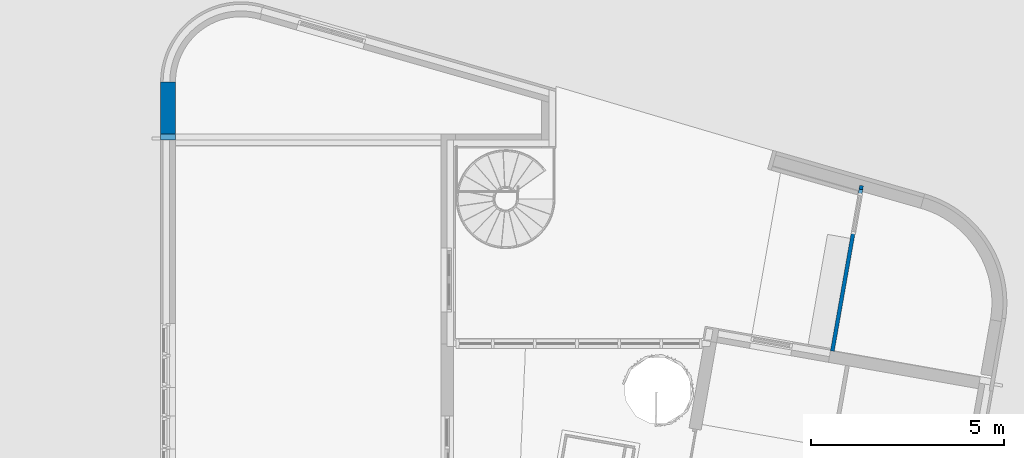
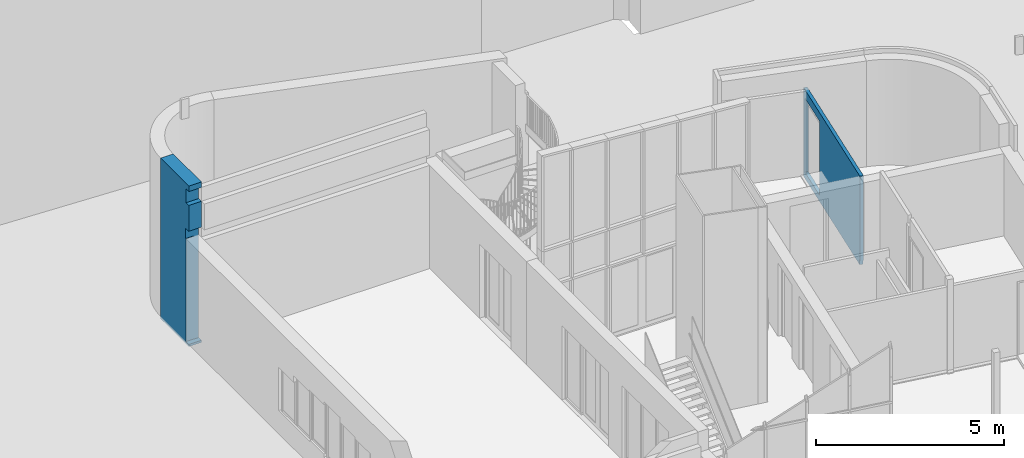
# One storey, part 16 of 21: 2 walls.
"""IFC2X3 building model written with IfcOpenShell, lengths in millimetres."""

from ifc_helpers import new_model, entity, si_unit, converted_unit, derived_unit, direction, frame, origin, place, context, subcontext, project, spatial, faceted_brep, material, layer, layer_set, type_object, element, save


model = new_model("IFC2X3")

# Units and contexts
model_context = context("Model", 3, precision=0.01, world=origin(), true_north=direction((6.12303176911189e-17, 1.0)))
body_context = subcontext(model_context, "Body", "Model", "MODEL_VIEW")
ifc_project = project(units=[si_unit("LENGTHUNIT", "METRE", prefix="MILLI"), si_unit("AREAUNIT", "SQUARE_METRE"), si_unit("VOLUMEUNIT", "CUBIC_METRE"), converted_unit("PLANEANGLEUNIT", "DEGREE", entity("IfcRatioMeasure", 0.0174532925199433), si_unit("PLANEANGLEUNIT", "RADIAN"), dimensions=[0, 0, 0, 0, 0, 0, 0]), si_unit("MASSUNIT", "GRAM", prefix="KILO"), derived_unit("MASSDENSITYUNIT", [(si_unit("MASSUNIT", "GRAM", prefix="KILO"), 1), (si_unit("LENGTHUNIT", "METRE"), -3)]), derived_unit("MOMENTOFINERTIAUNIT", [(si_unit("LENGTHUNIT", "METRE"), 4)]), si_unit("TIMEUNIT", "SECOND"), si_unit("FREQUENCYUNIT", "HERTZ"), si_unit("THERMODYNAMICTEMPERATUREUNIT", "DEGREE_CELSIUS"), derived_unit("THERMALTRANSMITTANCEUNIT", [(si_unit("MASSUNIT", "GRAM", prefix="KILO"), 1), (si_unit("THERMODYNAMICTEMPERATUREUNIT", "KELVIN"), -1), (si_unit("TIMEUNIT", "SECOND"), -3)]), derived_unit("VOLUMETRICFLOWRATEUNIT", [(si_unit("LENGTHUNIT", "METRE"), 3), (si_unit("TIMEUNIT", "SECOND"), -1)]), si_unit("ELECTRICCURRENTUNIT", "AMPERE"), si_unit("ELECTRICVOLTAGEUNIT", "VOLT"), si_unit("POWERUNIT", "WATT"), si_unit("FORCEUNIT", "NEWTON", prefix="KILO"), si_unit("ILLUMINANCEUNIT", "LUX"), si_unit("LUMINOUSFLUXUNIT", "LUMEN"), si_unit("LUMINOUSINTENSITYUNIT", "CANDELA"), derived_unit("USERDEFINED", [(si_unit("MASSUNIT", "GRAM", prefix="KILO"), -1), (si_unit("LENGTHUNIT", "METRE"), -2), (si_unit("TIMEUNIT", "SECOND"), 3), (si_unit("LUMINOUSFLUXUNIT", "LUMEN"), 1)]), derived_unit("LINEARVELOCITYUNIT", [(si_unit("LENGTHUNIT", "METRE"), 1), (si_unit("TIMEUNIT", "SECOND"), -1)]), si_unit("PRESSUREUNIT", "PASCAL"), derived_unit("USERDEFINED", [(si_unit("LENGTHUNIT", "METRE"), -2), (si_unit("MASSUNIT", "GRAM", prefix="KILO"), 1), (si_unit("TIMEUNIT", "SECOND"), -2)]), derived_unit("LINEARFORCEUNIT", [(si_unit("MASSUNIT", "GRAM", prefix="KILO"), 1), (si_unit("LENGTHUNIT", "METRE"), 1), (si_unit("TIMEUNIT", "SECOND"), -2), (si_unit("LENGTHUNIT", "METRE"), -1)]), derived_unit("PLANARFORCEUNIT", [(si_unit("MASSUNIT", "GRAM", prefix="KILO"), 1), (si_unit("LENGTHUNIT", "METRE"), 1), (si_unit("TIMEUNIT", "SECOND"), -2), (si_unit("LENGTHUNIT", "METRE"), -2)])], contexts=[model_context])

# Site, building, storey
site_placement = place(None, origin())
site = spatial("IfcSite", under=ifc_project, at=site_placement, Name="<Kadaster Gemeente>;<Kadaster nummer>;<Kadaster sectie>", CompositionType="ELEMENT")
building_placement = place(site_placement, origin())
building = spatial("IfcBuilding", under=site, at=building_placement, Name="JRCZ Middelburg", CompositionType="ELEMENT")
storey_placement = place(building_placement, origin())
storey = spatial("IfcBuildingStorey", under=building, at=storey_placement, Name="00 begane grond", CompositionType="ELEMENT", Elevation=0.0)

# Walls
ifc_material_1 = material(Name="Gevelafwerking")
ifc_layer_1 = layer(ifc_material_1, 30.0)
ifc_material_2 = material(Name="ISR_Luchtspouw")
ifc_layer_2 = layer(ifc_material_2, 35.0)
ifc_layer_3 = layer(ifc_material_2, 35.0)
ifc_material_3 = material(Name="RBM_n7_isolatie_hsb_270")
ifc_layer_4 = layer(ifc_material_3, 270.0)
ifc_material_4 = material(Name="RBM_i4_multiplex_beplating")
ifc_layer_5 = layer(ifc_material_4, 18.0)
ifc_layer_set_1 = layer_set([ifc_layer_1, ifc_layer_2, ifc_layer_3, ifc_layer_4, ifc_layer_5], Name="Basic Wall:21_RBM_WA_hsb_270mm_houten bekleding")
wall_type_1 = type_object("IfcWallType", Name="Basic Wall:21_RBM_WA_hsb_270mm_houten bekleding", PredefinedType="STANDARD", material=ifc_layer_set_1)
wall_1_placement = place(storey_placement, frame((9956.0, 24397.0, -70.0), z_axis=(0.0, 0.0, 1.0), x_axis=(0.0, 1.0, 0.0)))
element("IfcWall", 1, at=wall_1_placement, inside=storey, type_object=wall_type_1, Name="Basic Wall:21_RBM_WA_hsb_270mm_houten bekleding", ObjectType="Basic Wall:21_RBM_WA_hsb_270mm_houten bekleding", context=body_context, shape_type="Brep", body=[
    faceted_brep([(0.0, -194.0, 0.0), (1500.33218403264, -194.0, 0.0), (1500.33218403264, -194.0, 5200.0), (219.0, -194.0, 5200.0), (0.0, -194.0, 5200.0), (0.0, -194.0, 5020.0), (153.0, -194.0, 5020.0), (153.0, -194.0, 4570.0), (3.0, -194.0, 4570.0), (3.0, -194.0, 3735.0), (153.0, -194.0, 3735.0), (153.0, -194.0, 3725.0), (153.0, -194.0, 3405.0), (153.0, -194.0, 70.0), (0.0, -194.0, 70.0), (1500.33218403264, 194.0, 0.0), (0.0, 194.0, 0.0), (0.0, 194.0, 70.0), (153.0, 194.0, 70.0), (153.0, 194.0, 3405.0), (165.500000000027, 194.0, 3405.0), (165.500000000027, 194.0, 3725.0), (153.0, 194.0, 3725.0), (153.0, 194.0, 3735.0), (3.0, 194.0, 3735.0), (3.0, 194.0, 4570.0), (153.0, 194.0, 4570.0), (153.0, 194.0, 5020.0), (0.0, 194.0, 5020.0), (0.0, 194.0, 5200.0), (219.0, 194.0, 5200.0), (1500.33218403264, 194.0, 5200.0), (165.500000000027, -44.0, 3725.0), (153.0, -44.0, 3725.0), (153.0, -44.0, 3405.0), (165.500000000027, -44.0, 3405.0)], [[[0, 1, 2, 3, 4, 5, 6, 7, 8, 9, 10, 11, 12, 13, 14]], [[15, 16, 17, 18, 19, 20, 21, 22, 23, 24, 25, 26, 27, 28, 29, 30, 31]], [[1, 0, 16, 15]], [[2, 1, 15, 31]], [[4, 3, 2, 31, 30, 29]], [[16, 0, 14, 17]], [[18, 17, 14, 13]], [[4, 29, 28, 5]], [[21, 32, 33, 22]], [[18, 13, 12, 11, 10, 23, 22, 33, 34, 19]], [[32, 35, 34, 33]], [[35, 20, 19, 34]], [[35, 32, 21, 20]], [[23, 10, 9, 24]], [[24, 9, 8, 25]], [[25, 8, 7, 26]], [[27, 6, 5, 28]], [[26, 7, 6, 27]]]),
])
ifc_material_5 = material(Name="RBM_n7_isolatie_hsb_100")
ifc_layer_6 = layer(ifc_material_5, 100.0)
ifc_layer_set_2 = layer_set([ifc_layer_6], Name="Basic Wall:22_WA_hsb-buitenwand_100mm 2")
wall_type_2 = type_object("IfcWallType", Name="Basic Wall:22_WA_hsb-buitenwand_100mm 2", PredefinedType="STANDARD", material=ifc_layer_set_2)
wall_2_placement = place(storey_placement, frame((27965.815816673, 23213.0150913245, -200.0), z_axis=(0.0, 0.0, 1.0), x_axis=(-0.17364817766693, -0.984807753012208, 0.0)))
element("IfcWall", 2, at=wall_2_placement, inside=storey, type_object=wall_type_2, Name="Basic Wall:22_WA_hsb-buitenwand_100mm 2", ObjectType="Basic Wall:22_WA_hsb-buitenwand_100mm 2", context=body_context, shape_type="Brep", body=[
    faceted_brep([(0.0, -50.0, 0.0), (4349.70993834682, -50.0, 0.0), (4349.70993834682, -50.0, 120.0), (4303.70993834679, -50.0, 120.0), (4303.70993834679, -50.0, 130.0), (4303.70993834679, -50.0, 2845.0), (4363.7099383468, -50.0, 2845.0), (4363.7099383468, -50.0, 2876.0), (0.0, -50.0, 2876.0), (100.214848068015, -50.0, 2600.0), (1242.61693780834, -50.0, 2600.0), (1242.61693780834, -50.0, 200.0), (100.214848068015, -50.0, 200.0), (4349.70993834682, 50.0, 0.0), (0.0, 50.0, 0.0), (0.0, 50.0, 2876.0), (4363.7099383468, 50.0, 2876.0), (4363.7099383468, 50.0, 2845.0), (4363.70993834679, 50.0, 130.0), (4303.7099383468, 50.0, 130.0), (4303.70993834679, 50.0, 120.0), (4349.70993834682, 50.0, 120.0), (1242.61693780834, 50.0, 2600.0), (100.214848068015, 50.0, 2600.0), (100.214848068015, 50.0, 200.0), (1242.61693780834, 50.0, 200.0), (4303.70993834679, -49.4205888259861, 130.0), (4303.70993834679, -49.4205888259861, 2845.0), (4363.70993834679, -49.420588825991, 2845.0), (4363.7099383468, -49.4205888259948, 130.0), (4363.7099383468, -49.4205888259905, 2835.0)], [[[0, 1, 2, 3, 4, 5, 6, 7, 8], [9, 10, 11, 12]], [[13, 14, 15, 16, 17, 18, 19, 20, 21], [22, 23, 24, 25]], [[2, 1, 13, 21]], [[4, 3, 20, 19, 26]], [[5, 4, 26, 27]], [[7, 6, 28, 17, 16]], [[1, 0, 14, 13]], [[8, 7, 16, 15]], [[0, 8, 15, 14]], [[10, 9, 23, 22]], [[11, 10, 22, 25]], [[12, 11, 25, 24]], [[9, 12, 24, 23]], [[3, 2, 21, 20]], [[19, 18, 29, 26]], [[6, 5, 27, 28]], [[26, 29, 30, 28, 27]], [[18, 17, 28, 30, 29]]]),
])

save(model, "model.ifc")
